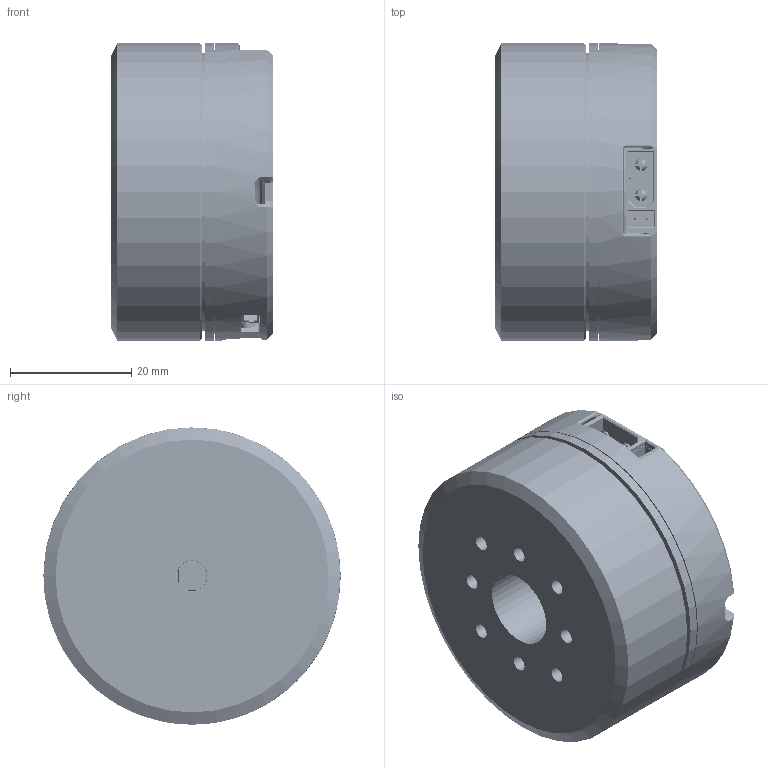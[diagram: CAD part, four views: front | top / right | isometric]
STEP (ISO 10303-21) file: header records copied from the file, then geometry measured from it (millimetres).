
FILE_DESCRIPTION(/* description */ (''),/* implementation_level */ '2;1');
FILE_NAME(/* name */ 'QD4310.step',/* time_stamp */ '2026-01-26T20:33:09+08:00',/* author */ (''),/* organization */ (''),/* preprocessor_version */ 'ST-DEVELOPER v20.1',/* originating_system */ 'Autodesk Translation Framework v14.24.0.0',/* authorisation */ '');
FILE_SCHEMA (('AUTOMOTIVE_DESIGN { 1 0 10303 214 3 1 1 }'));
Products named in the file (202): QD4310; PM4310-3¿×°æÄ£ÐÍ-²
»´øºó¸Ç; 转子; 定子; PCB; Board; Open CASCADE STEP translator 7.5 2.1.1; C20; U8; TSSOP16; TSSOP16_ASM_1_AF0_ASM; TSSOP16_1_ASM_1_AF0_ASM; TSSOP16_00_1_AF0; _0_9_100_1; JP2; JP1; 3D Model; SH_1_0-LT-3P_ASM_1_AF0_ASM; ID20001_ASM_1_AF0_ASM_1_AF0_ASM; 3DID1_AF00001_ASM_1_AF0_ASM_1_ASM; LPATTERN3_11__1_AF0_1_1_1_2; LPATTERN3_7__1_3_1; LPATTERN3_2__1_3_1; LPATTERN3_6__1_AF0_3_1; EXTRUDE8_1_1_1; PIN_1_MARK_1_AF0_3_AF0_1; LPATTERN3_3__1_1_1; LPATTERN3_1__1_AF0_3_1; SH1_0-2L_ASM_1_AF0_ASM_1_AF0_ASM; ID0001_ASM_1_ASM_1_AF0_ASM_1_AF0_ASM; EXTRUDE7_1_1_1_1_AF0; PIN_1_MARK_AF0_1_1_AF0_1; L3; 1206; 1206-157_ASM; 1206-7095_ASM; 5_100; 4_100; _3_10001; D5 ...
Assembly tree (496 placements, depth 9):
  QD4310
    PM4310-3¿×°æÄ£ÐÍ-²
»´øºó¸Ç
      转子
      定子
    PCB
      Board
        Open CASCADE STEP translator 7.5 2.1.1
      C20
        C 0402
          C_0402-4045_AF0_ASM
            C_0402-672_AF0_ASM
              _1_10001
              3_1_A
              2_100
      U8
        TSSOP16
          TSSOP16_ASM_1_AF0_ASM
            TSSOP16_1_ASM_1_AF0_ASM
              _0_9_100_1  x16
              TSSOP16_00_1_AF0
      JP2
        3D Model
          SH_1_0-LT-3P_ASM_1_AF0_ASM
            ID20001_ASM_1_AF0_ASM_1_AF0_ASM
              3DID1_AF00001_ASM_1_AF0_ASM_1_ASM
                LPATTERN3_11__1_AF0_1_1_1_2
                LPATTERN3_7__1_3_1
                LPATTERN3_2__1_3_1
                LPATTERN3_6__1_AF0_3_1
                EXTRUDE8_1_1_1
                PIN_1_MARK_1_AF0_3_AF0_1
                LPATTERN3_3__1_1_1
                LPATTERN3_1__1_AF0_3_1
              SH1_0-2L_ASM_1_AF0_ASM_1_AF0_ASM
                ID0001_ASM_1_ASM_1_AF0_ASM_1_AF0_ASM
                  EXTRUDE7_1_1_1_1_AF0
                  PIN_1_MARK_AF0_1_1_AF0_1
      JP1
        3D Model
          SH_1_0-LT-3P_ASM_1_AF0_ASM
            ID20001_ASM_1_AF0_ASM_1_AF0_ASM
              3DID1_AF00001_ASM_1_AF0_ASM_1_ASM
                LPATTERN3_11__1_AF0_1_1_1_2
                LPATTERN3_7__1_3_1
                LPATTERN3_2__1_3_1
                LPATTERN3_6__1_AF0_3_1
                EXTRUDE8_1_1_1
                PIN_1_MARK_1_AF0_3_AF0_1
                LPATTERN3_3__1_1_1
                LPATTERN3_1__1_AF0_3_1
              SH1_0-2L_ASM_1_AF0_ASM_1_AF0_ASM
                ID0001_ASM_1_ASM_1_AF0_ASM_1_AF0_ASM
                  EXTRUDE7_1_1_1_1_AF0
                  PIN_1_MARK_AF0_1_1_AF0_1
      L3
        1206
          1206-157_ASM
            1206-7095_ASM
              5_100
              4_100
Bounding box: 26.67 x 49 x 49 mm (x, y, z)
Volume: 35441.6 mm3; surface area: 27004.2 mm2
Topology: 456 solids, 480 shells, 36535 faces, 95621 edges, 62636 vertices
Faces by surface type: plane 25675, bspline 7576, cylinder 2555, sphere 390, torus 327, cone 12
Full cylindrical faces by diameter (mm): 0.25 x9, 0.3 x1, 0.364 x2, 0.5 x3, 0.7 x1, 0.75 x2, 0.914 x2, 1.6 x7, 1.9 x2, 2.05 x4, 2.075 x4, 2.5 x4, 2.504 x4, 2.529 x8, 2.7 x1, 2.9 x4, 5 x1, 5.727 x4, 8.5 x1, 9.4 x1, 9.5 x1, 12.6 x2, 16.6 x1, 36 x1, 40 x1, 46 x1, 47 x2, 47.568 x1, 49 x3
Entity records: 482527 total; most frequent: CARTESIAN_POINT 157755, ORIENTED_EDGE 71366, DIRECTION 54095, EDGE_CURVE 35683, LINE 26701, VECTOR 26701, VERTEX_POINT 23518, EDGE_LOOP 14575
